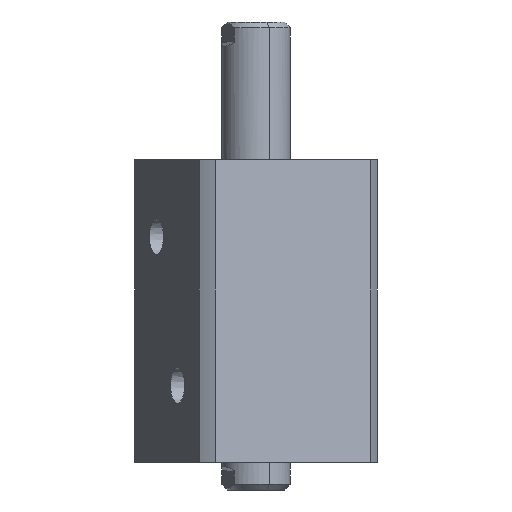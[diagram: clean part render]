
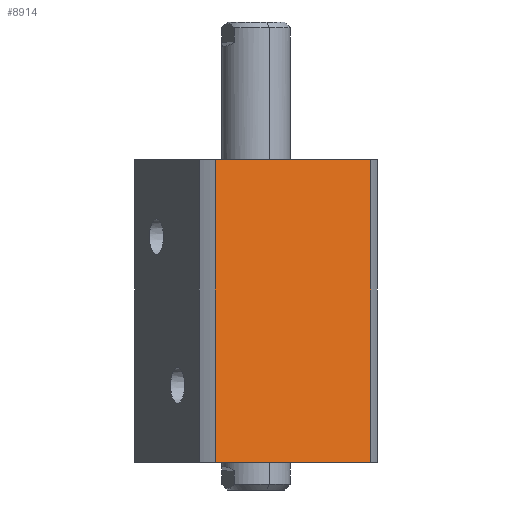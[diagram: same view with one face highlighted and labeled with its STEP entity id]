
A CAD part, left-side view. The second image highlights one B-rep face of the part: STEP entity #8914.
In plain terms, the highlighted planar face has unit normal (-0.924, -0.383, 0) as drawn and (1, 0, 0) by its records, which use the part's own axes.
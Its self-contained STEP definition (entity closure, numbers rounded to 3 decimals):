
#646 = CARTESIAN_POINT ( 'NONE',  ( 35., 30.615, 0. ) ) ;
#681 = DIRECTION ( 'NONE',  ( 0., 0., 1. ) ) ;
#810 = DIRECTION ( 'NONE',  ( 0., -1., 0. ) ) ;
#1200 = VECTOR ( 'NONE', #681, 1000. ) ;
#1285 = ORIENTED_EDGE ( 'NONE', *, *, #1681, .F. ) ;
#1500 = CARTESIAN_POINT ( 'NONE',  ( 35., -30.615, -190. ) ) ;
#1576 = LINE ( 'NONE', #1732, #7747 ) ;
#1681 = EDGE_CURVE ( 'NONE', #8179, #3693, #1576, .T. ) ;
#1732 = CARTESIAN_POINT ( 'NONE',  ( 35., 35., 110. ) ) ;
#1794 = CARTESIAN_POINT ( 'NONE',  ( 35., 30.615, 110. ) ) ;
#1938 = VECTOR ( 'NONE', #9738, 1000. ) ;
#2112 = CARTESIAN_POINT ( 'NONE',  ( 35., -30.615, 0. ) ) ;
#3067 = VECTOR ( 'NONE', #4775, 1000. ) ;
#3310 = LINE ( 'NONE', #3932, #3067 ) ;
#3315 = LINE ( 'NONE', #1500, #1200 ) ;
#3679 = FACE_OUTER_BOUND ( 'NONE', #5078, .T. ) ;
#3693 = VERTEX_POINT ( 'NONE', #1794 ) ;
#3713 = EDGE_CURVE ( 'NONE', #7502, #8179, #3315, .T. ) ;
#3932 = CARTESIAN_POINT ( 'NONE',  ( 35., 30.615, -190. ) ) ;
#4308 = AXIS2_PLACEMENT_3D ( 'NONE', #4817, #5626, #810 ) ;
#4775 = DIRECTION ( 'NONE',  ( 0., 0., -1. ) ) ;
#4817 = CARTESIAN_POINT ( 'NONE',  ( 35., 35., 110. ) ) ;
#5078 = EDGE_LOOP ( 'NONE', ( #9362, #5320, #7454, #1285 ) ) ;
#5320 = ORIENTED_EDGE ( 'NONE', *, *, #8236, .T. ) ;
#5626 = DIRECTION ( 'NONE',  ( -1., 0., 0. ) ) ;
#6062 = VERTEX_POINT ( 'NONE', #646 ) ;
#7454 = ORIENTED_EDGE ( 'NONE', *, *, #10169, .F. ) ;
#7502 = VERTEX_POINT ( 'NONE', #2112 ) ;
#7538 = DIRECTION ( 'NONE',  ( 0., 1., 0. ) ) ;
#7747 = VECTOR ( 'NONE', #7538, 1000. ) ;
#8039 = CARTESIAN_POINT ( 'NONE',  ( 35., -30.615, 110. ) ) ;
#8179 = VERTEX_POINT ( 'NONE', #8039 ) ;
#8236 = EDGE_CURVE ( 'NONE', #7502, #6062, #8396, .T. ) ;
#8396 = LINE ( 'NONE', #9709, #1938 ) ;
#8914 = ADVANCED_FACE ( 'NONE', ( #3679 ), #9638, .F. ) ;
#9362 = ORIENTED_EDGE ( 'NONE', *, *, #3713, .F. ) ;
#9638 = PLANE ( 'NONE',  #4308 ) ;
#9709 = CARTESIAN_POINT ( 'NONE',  ( 35., 35., 0. ) ) ;
#9738 = DIRECTION ( 'NONE',  ( 0., 1., 0. ) ) ;
#10169 = EDGE_CURVE ( 'NONE', #3693, #6062, #3310, .T. ) ;
